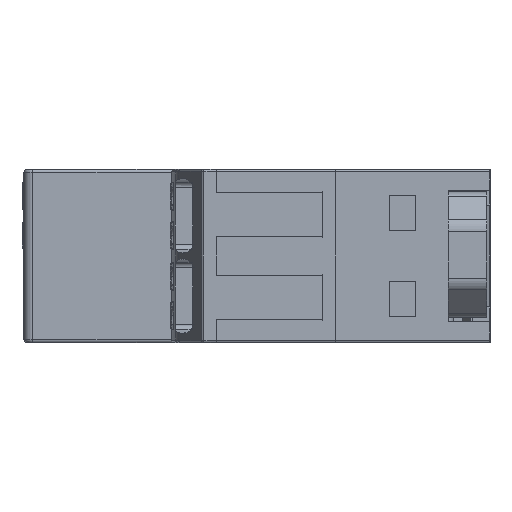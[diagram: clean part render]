
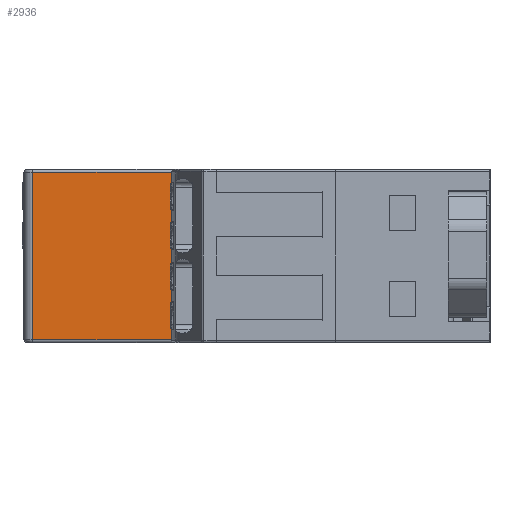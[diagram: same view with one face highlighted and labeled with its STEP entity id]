
A CAD part, left-side view. The second image highlights one B-rep face of the part: STEP entity #2936.
In plain terms, the highlighted planar face has unit normal (-1, 0, 0).
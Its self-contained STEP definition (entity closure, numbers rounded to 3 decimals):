
#401 = LINE ( 'NONE', #14765, #8057 ) ;
#431 = DIRECTION ( 'NONE',  ( 0., 0., -1. ) ) ;
#615 = DIRECTION ( 'NONE',  ( 0., 1., 0. ) ) ;
#957 = VECTOR ( 'NONE', #4525, 1000. ) ;
#1081 = EDGE_CURVE ( 'NONE', #2132, #16635, #27886, .T. ) ;
#1104 = CARTESIAN_POINT ( 'NONE',  ( 7.244, -0.196, 30.1 ) ) ;
#1304 = DIRECTION ( 'NONE',  ( 0., 1., 0. ) ) ;
#1586 = LINE ( 'NONE', #17139, #24877 ) ;
#2009 = LINE ( 'NONE', #29801, #26054 ) ;
#2132 = VERTEX_POINT ( 'NONE', #1104 ) ;
#2323 = VECTOR ( 'NONE', #1304, 1000. ) ;
#2414 = EDGE_CURVE ( 'NONE', #16635, #11841, #15446, .T. ) ;
#2436 = ORIENTED_EDGE ( 'NONE', *, *, #12102, .F. ) ;
#2475 = CARTESIAN_POINT ( 'NONE',  ( 7.244, -0.196, 17.35 ) ) ;
#2492 = VERTEX_POINT ( 'NONE', #19931 ) ;
#2923 = DIRECTION ( 'NONE',  ( 1., 0., 0. ) ) ;
#2936 = ADVANCED_FACE ( 'NONE', ( #20136 ), #10392, .F. ) ;
#3052 = ORIENTED_EDGE ( 'NONE', *, *, #25020, .T. ) ;
#3179 = CARTESIAN_POINT ( 'NONE',  ( 7.244, 19.404, 16.1 ) ) ;
#3876 = ORIENTED_EDGE ( 'NONE', *, *, #28871, .T. ) ;
#4146 = VERTEX_POINT ( 'NONE', #12513 ) ;
#4189 = CARTESIAN_POINT ( 'NONE',  ( 7.244, 5.704, 17.6 ) ) ;
#4525 = DIRECTION ( 'NONE',  ( 0., 0., -1. ) ) ;
#4700 = EDGE_CURVE ( 'NONE', #2492, #20744, #1586, .T. ) ;
#4759 = DIRECTION ( 'NONE',  ( 0., 0., -1. ) ) ;
#4883 = EDGE_CURVE ( 'NONE', #2132, #25562, #9597, .T. ) ;
#5128 = VECTOR ( 'NONE', #4759, 1000. ) ;
#5347 = DIRECTION ( 'NONE',  ( 1., 0., 0. ) ) ;
#5552 = DIRECTION ( 'NONE',  ( 0., -1., 0. ) ) ;
#5579 = ORIENTED_EDGE ( 'NONE', *, *, #13380, .F. ) ;
#5820 = VERTEX_POINT ( 'NONE', #20132 ) ;
#6441 = CARTESIAN_POINT ( 'NONE',  ( 7.244, 5.704, 18.723 ) ) ;
#7208 = LINE ( 'NONE', #12052, #12685 ) ;
#8057 = VECTOR ( 'NONE', #28687, 1000. ) ;
#8495 = CARTESIAN_POINT ( 'NONE',  ( 7.244, 6.704, 30.1 ) ) ;
#8600 = VECTOR ( 'NONE', #12603, 1000. ) ;
#9203 = VECTOR ( 'NONE', #23871, 1000. ) ;
#9440 = CARTESIAN_POINT ( 'NONE',  ( 7.244, 6.704, 31.65 ) ) ;
#9573 = VECTOR ( 'NONE', #615, 1000. ) ;
#9597 = LINE ( 'NONE', #8495, #28140 ) ;
#10345 = EDGE_CURVE ( 'NONE', #20744, #4146, #18833, .T. ) ;
#10392 = PLANE ( 'NONE',  #15434 ) ;
#10505 = EDGE_CURVE ( 'NONE', #16203, #25562, #20627, .T. ) ;
#10839 = DIRECTION ( 'NONE',  ( 0., 1., 0. ) ) ;
#10915 = CARTESIAN_POINT ( 'NONE',  ( 7.244, 6.704, 31.65 ) ) ;
#11475 = CARTESIAN_POINT ( 'NONE',  ( 7.244, -0.196, 17.35 ) ) ;
#11595 = VERTEX_POINT ( 'NONE', #4189 ) ;
#11804 = CARTESIAN_POINT ( 'NONE',  ( 7.244, -0.196, 30.1 ) ) ;
#11841 = VERTEX_POINT ( 'NONE', #26473 ) ;
#12052 = CARTESIAN_POINT ( 'NONE',  ( 7.244, 19.404, 15.8 ) ) ;
#12102 = EDGE_CURVE ( 'NONE', #19807, #11595, #2009, .T. ) ;
#12196 = LINE ( 'NONE', #6441, #24551 ) ;
#12407 = ORIENTED_EDGE ( 'NONE', *, *, #20153, .F. ) ;
#12513 = CARTESIAN_POINT ( 'NONE',  ( 7.244, -0.196, 16.1 ) ) ;
#12603 = DIRECTION ( 'NONE',  ( 0., 0., 1. ) ) ;
#12685 = VECTOR ( 'NONE', #431, 1000. ) ;
#12767 = LINE ( 'NONE', #9440, #5128 ) ;
#13380 = EDGE_CURVE ( 'NONE', #14989, #5820, #21239, .T. ) ;
#14459 = ORIENTED_EDGE ( 'NONE', *, *, #4883, .F. ) ;
#14765 = CARTESIAN_POINT ( 'NONE',  ( 7.244, -0.196, 16.1 ) ) ;
#14989 = VERTEX_POINT ( 'NONE', #27635 ) ;
#15299 = ORIENTED_EDGE ( 'NONE', *, *, #22183, .T. ) ;
#15434 = AXIS2_PLACEMENT_3D ( 'NONE', #10915, #16083, #25652 ) ;
#15446 = LINE ( 'NONE', #25216, #2323 ) ;
#15748 = ORIENTED_EDGE ( 'NONE', *, *, #4700, .F. ) ;
#15923 = ORIENTED_EDGE ( 'NONE', *, *, #26201, .T. ) ;
#16083 = DIRECTION ( 'NONE',  ( 1., 0., 0. ) ) ;
#16203 = VERTEX_POINT ( 'NONE', #19512 ) ;
#16635 = VERTEX_POINT ( 'NONE', #26101 ) ;
#16870 = CARTESIAN_POINT ( 'NONE',  ( 7.244, 5.454, 17.6 ) ) ;
#17139 = CARTESIAN_POINT ( 'NONE',  ( 7.244, 6.704, 17.35 ) ) ;
#17763 = ORIENTED_EDGE ( 'NONE', *, *, #1081, .T. ) ;
#17811 = CIRCLE ( 'NONE', #19841, 0.25 ) ;
#18174 = ORIENTED_EDGE ( 'NONE', *, *, #2414, .T. ) ;
#18220 = DIRECTION ( 'NONE',  ( 0., 0., -1. ) ) ;
#18833 = LINE ( 'NONE', #11475, #957 ) ;
#18839 = EDGE_CURVE ( 'NONE', #16203, #14989, #22305, .T. ) ;
#18917 = CARTESIAN_POINT ( 'NONE',  ( 7.244, 6.704, 18.723 ) ) ;
#19060 = ORIENTED_EDGE ( 'NONE', *, *, #10345, .F. ) ;
#19227 = DIRECTION ( 'NONE',  ( 0., 0., -1. ) ) ;
#19285 = CARTESIAN_POINT ( 'NONE',  ( 7.244, 5.454, 29.85 ) ) ;
#19465 = ORIENTED_EDGE ( 'NONE', *, *, #18839, .F. ) ;
#19512 = CARTESIAN_POINT ( 'NONE',  ( 7.244, 5.704, 29.85 ) ) ;
#19539 = AXIS2_PLACEMENT_3D ( 'NONE', #19285, #5347, #21640 ) ;
#19807 = VERTEX_POINT ( 'NONE', #28970 ) ;
#19841 = AXIS2_PLACEMENT_3D ( 'NONE', #16870, #2923, #19227 ) ;
#19931 = CARTESIAN_POINT ( 'NONE',  ( 7.244, 5.454, 17.35 ) ) ;
#20132 = CARTESIAN_POINT ( 'NONE',  ( 7.244, 6.704, 28.726 ) ) ;
#20136 = FACE_OUTER_BOUND ( 'NONE', #23564, .T. ) ;
#20153 = EDGE_CURVE ( 'NONE', #5820, #20184, #12767, .T. ) ;
#20184 = VERTEX_POINT ( 'NONE', #18917 ) ;
#20627 = CIRCLE ( 'NONE', #19539, 0.25 ) ;
#20744 = VERTEX_POINT ( 'NONE', #2475 ) ;
#21239 = LINE ( 'NONE', #28485, #9573 ) ;
#21579 = CARTESIAN_POINT ( 'NONE',  ( 7.244, 5.454, 30.1 ) ) ;
#21640 = DIRECTION ( 'NONE',  ( 0., 0., -1. ) ) ;
#22049 = CARTESIAN_POINT ( 'NONE',  ( 7.244, 5.704, 30.1 ) ) ;
#22183 = EDGE_CURVE ( 'NONE', #11841, #26792, #7208, .T. ) ;
#22305 = LINE ( 'NONE', #22049, #9203 ) ;
#22728 = DIRECTION ( 'NONE',  ( 0., 1., 0. ) ) ;
#23564 = EDGE_LOOP ( 'NONE', ( #17763, #18174, #15299, #3052, #19060, #15748, #15923, #2436, #3876, #12407, #5579, #19465, #28538, #14459 ) ) ;
#23871 = DIRECTION ( 'NONE',  ( 0., 0., -1. ) ) ;
#24551 = VECTOR ( 'NONE', #22728, 1000. ) ;
#24877 = VECTOR ( 'NONE', #5552, 1000. ) ;
#25020 = EDGE_CURVE ( 'NONE', #26792, #4146, #401, .T. ) ;
#25216 = CARTESIAN_POINT ( 'NONE',  ( 7.244, 6.704, 31.35 ) ) ;
#25562 = VERTEX_POINT ( 'NONE', #21579 ) ;
#25652 = DIRECTION ( 'NONE',  ( 0., 1., 0. ) ) ;
#26054 = VECTOR ( 'NONE', #18220, 1000. ) ;
#26101 = CARTESIAN_POINT ( 'NONE',  ( 7.244, -0.196, 31.35 ) ) ;
#26201 = EDGE_CURVE ( 'NONE', #2492, #11595, #17811, .T. ) ;
#26473 = CARTESIAN_POINT ( 'NONE',  ( 7.244, 19.404, 31.35 ) ) ;
#26792 = VERTEX_POINT ( 'NONE', #3179 ) ;
#27635 = CARTESIAN_POINT ( 'NONE',  ( 7.244, 5.704, 28.726 ) ) ;
#27886 = LINE ( 'NONE', #11804, #8600 ) ;
#28140 = VECTOR ( 'NONE', #10839, 1000. ) ;
#28485 = CARTESIAN_POINT ( 'NONE',  ( 7.244, 5.704, 28.726 ) ) ;
#28538 = ORIENTED_EDGE ( 'NONE', *, *, #10505, .T. ) ;
#28687 = DIRECTION ( 'NONE',  ( 0., -1., 0. ) ) ;
#28871 = EDGE_CURVE ( 'NONE', #19807, #20184, #12196, .T. ) ;
#28970 = CARTESIAN_POINT ( 'NONE',  ( 7.244, 5.704, 18.723 ) ) ;
#29801 = CARTESIAN_POINT ( 'NONE',  ( 7.244, 5.704, 17.35 ) ) ;
